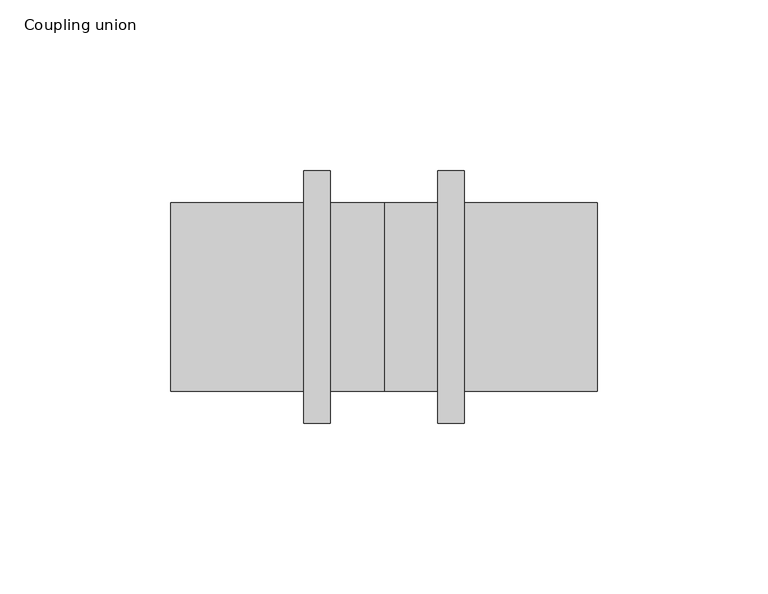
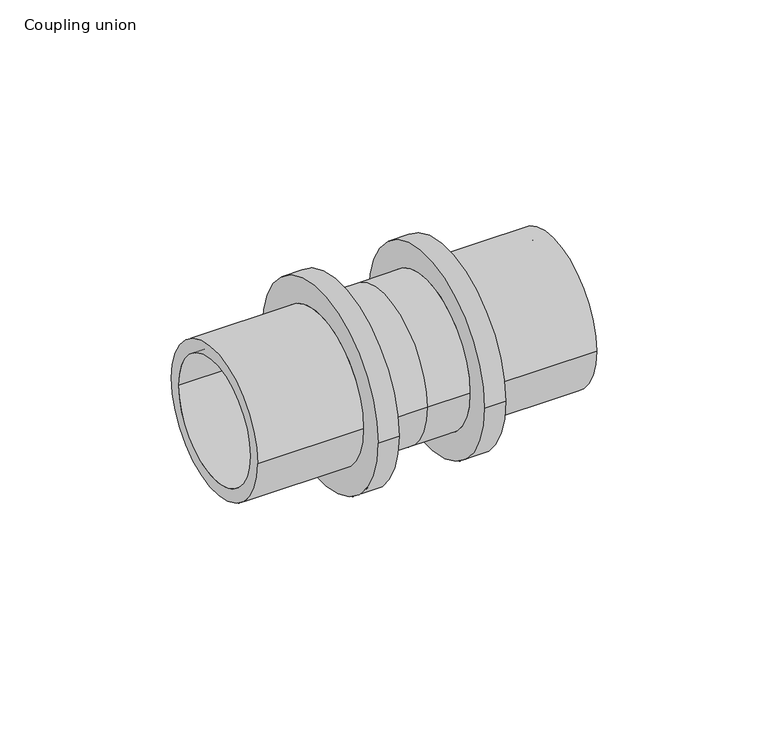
"""IFC4 building model written with IfcOpenShell, lengths in millimetres: pipe fitting geometry, Coupling union : C EQ SDR11 LX."""

from ifc_helpers import new_model, si_unit, frame, origin, place, context, project, spatial, polyline, circle_curve, source, transform, mapped, element, save
from ifc_brep_helpers import plane_surface, cylinder_surface, revolved_surface, advanced_brep


def coupling_union_f10d7a8f(model_context):
    return source(origin(), model_context, "Body", "AdvancedBrep", [
        advanced_brep(
        [(23.5, 37.0, 0.0), (23.5, -37.0, 0.0), (15.8, -37.0, 0.0), (15.8, 37.0, 0.0), (62.5, 27.55, 0.0), (62.5, -27.55, 0.0), (23.5, -27.55, 0.0), (23.5, 27.55, 0.0), (-62.5, 22.75, 0.0), (-62.5, -22.75, 0.0), (62.5, -22.75, 0.0), (62.5, 22.75, 0.0), (-23.5, 27.55, 0.0), (-23.5, -27.55, 0.0), (-62.5, -27.55, 0.0), (-62.5, 27.55, 0.0), (-15.8, 37.0, 0.0), (-15.8, -37.0, 0.0), (-23.5, -37.0, 0.0), (-23.5, 37.0, 0.0), (0.0, 27.55, 0.0), (0.0, -27.55, 0.0), (-15.8, -27.55, 0.0), (-15.8, 27.55, 0.0), (15.8, 27.55, 0.0), (15.8, -27.55, 0.0)],
        [
            (0, 1, circle_curve(frame((23.5, 0.0, 0.0), z_axis=(-1.0, 0.0, 0.0), x_axis=(0.0, -1.0, 0.0)), 37.0)),
            (1, 2),
            (2, 3, circle_curve(frame((15.8, 0.0, 0.0), z_axis=(1.0, 0.0, 0.0), x_axis=(0.0, -1.0, 0.0)), 37.0)),
            (3, 0),
            (4, 5, circle_curve(frame((62.5, 0.0, 0.0), z_axis=(-1.0, 0.0, 0.0), x_axis=(0.0, -1.0, 0.0)), 27.55)),
            (5, 6),
            (6, 7, circle_curve(frame((23.5, 0.0, 0.0), z_axis=(1.0, 0.0, 0.0), x_axis=(0.0, -1.0, 0.0)), 27.55)),
            (7, 4),
            (8, 9, circle_curve(frame((-62.5, 0.0, 0.0), z_axis=(-1.0, 0.0, 0.0), x_axis=(0.0, -1.0, 0.0)), 22.75)),
            (9, 10),
            (10, 11, circle_curve(frame((62.5, 0.0, 0.0), z_axis=(1.0, 0.0, 0.0), x_axis=(0.0, -1.0, 0.0)), 22.75)),
            (11, 8),
            (12, 13, circle_curve(frame((-23.5, 0.0, 0.0), z_axis=(-1.0, 0.0, 0.0), x_axis=(0.0, -1.0, 0.0)), 27.55)),
            (13, 14),
            (14, 15, circle_curve(frame((-62.5, 0.0, 0.0), z_axis=(1.0, 0.0, 0.0), x_axis=(0.0, -1.0, 0.0)), 27.55)),
            (15, 12),
            (16, 17, circle_curve(frame((-15.8, 0.0, 0.0), z_axis=(-1.0, 0.0, 0.0), x_axis=(0.0, -1.0, 0.0)), 37.0)),
            (17, 18),
            (18, 19, circle_curve(frame((-23.5, 0.0, 0.0), z_axis=(1.0, 0.0, 0.0), x_axis=(0.0, -1.0, 0.0)), 37.0)),
            (19, 16),
            (20, 21, circle_curve(frame((0.0, 0.0, 0.0), z_axis=(-1.0, 0.0, 0.0), x_axis=(0.0, -1.0, 0.0)), 27.55)),
            (21, 22),
            (22, 23, circle_curve(frame((-15.8, 0.0, 0.0), z_axis=(1.0, 0.0, 0.0), x_axis=(0.0, -1.0, 0.0)), 27.55)),
            (23, 20),
            (24, 25, circle_curve(frame((15.8, 0.0, 0.0), z_axis=(-1.0, 0.0, 0.0), x_axis=(0.0, -1.0, 0.0)), 27.55)),
            (25, 21),
            (20, 24),
            (1, 0, circle_curve(frame((23.5, 0.0, 0.0), z_axis=(-1.0, 0.0, 0.0), x_axis=(0.0, 1.0, 0.0)), 37.0)),
            (3, 2, circle_curve(frame((15.8, 0.0, 0.0), z_axis=(1.0, 0.0, 0.0), x_axis=(0.0, 1.0, 0.0)), 37.0)),
            (6, 7, circle_curve(frame((23.5, 0.0, 0.0), z_axis=(-1.0, 0.0, 0.0), x_axis=(0.0, 1.0, 0.0)), 27.55)),
            (5, 4, circle_curve(frame((62.5, 0.0, 0.0), z_axis=(-1.0, 0.0, 0.0), x_axis=(0.0, 1.0, 0.0)), 27.55)),
            (10, 11, circle_curve(frame((62.5, 0.0, 0.0), z_axis=(-1.0, 0.0, 0.0), x_axis=(0.0, 1.0, 0.0)), 22.75)),
            (9, 8, circle_curve(frame((-62.5, 0.0, 0.0), z_axis=(-1.0, 0.0, 0.0), x_axis=(0.0, 1.0, 0.0)), 22.75)),
            (14, 15, circle_curve(frame((-62.5, 0.0, 0.0), z_axis=(-1.0, 0.0, 0.0), x_axis=(0.0, 1.0, 0.0)), 27.55)),
            (13, 12, circle_curve(frame((-23.5, 0.0, 0.0), z_axis=(-1.0, 0.0, 0.0), x_axis=(0.0, 1.0, 0.0)), 27.55)),
            (18, 19, circle_curve(frame((-23.5, 0.0, 0.0), z_axis=(-1.0, 0.0, 0.0), x_axis=(0.0, 1.0, 0.0)), 37.0)),
            (17, 16, circle_curve(frame((-15.8, 0.0, 0.0), z_axis=(-1.0, 0.0, 0.0), x_axis=(0.0, 1.0, 0.0)), 37.0)),
            (22, 23, circle_curve(frame((-15.8, 0.0, 0.0), z_axis=(-1.0, 0.0, 0.0), x_axis=(0.0, 1.0, 0.0)), 27.55)),
            (21, 20, circle_curve(frame((0.0, 0.0, 0.0), z_axis=(-1.0, 0.0, 0.0), x_axis=(0.0, 1.0, 0.0)), 27.55)),
            (25, 24, circle_curve(frame((15.8, 0.0, 0.0), z_axis=(-1.0, 0.0, 0.0), x_axis=(0.0, 1.0, 0.0)), 27.55)),
        ],
        [
            cylinder_surface(frame((0.0, 0.0, 0.0), z_axis=(1.0, 0.0, 0.0), x_axis=(0.0, -1.0, 0.0)), 37.0),
            cylinder_surface(frame((0.0, 0.0, 0.0), z_axis=(1.0, 0.0, 0.0), x_axis=(0.0, -1.0, 0.0)), 27.55),
            revolved_surface(polyline([(62.5, -22.75, 0.0), (-62.5, -22.75, 0.0)]), (0.0, 0.0, 0.0), (1.0, 0.0, 0.0)),
            cylinder_surface(frame((0.0, 0.0, 0.0), z_axis=(1.0, 0.0, 0.0), x_axis=(0.0, 1.0, 0.0)), 37.0),
            plane_surface(frame((23.5, 0.0, 0.0), z_axis=(1.0, 0.0, 0.0), x_axis=(0.0, 1.0, 0.0))),
            cylinder_surface(frame((0.0, 0.0, 0.0), z_axis=(1.0, 0.0, 0.0), x_axis=(0.0, 1.0, 0.0)), 27.55),
            plane_surface(frame((62.5, 0.0, 0.0), z_axis=(1.0, 0.0, 0.0), x_axis=(0.0, 1.0, 0.0))),
            revolved_surface(polyline([(62.5, 22.75, 0.0), (-62.5, 22.75, 0.0)]), (0.0, 0.0, 0.0), (1.0, 0.0, 0.0)),
            plane_surface(frame((-62.5, 0.0, 0.0), z_axis=(-1.0, 0.0, 0.0), x_axis=(0.0, 1.0, 0.0))),
            plane_surface(frame((-23.5, 0.0, 0.0), z_axis=(-1.0, 0.0, 0.0), x_axis=(0.0, 1.0, 0.0))),
            plane_surface(frame((-15.8, 0.0, 0.0), z_axis=(1.0, 0.0, 0.0), x_axis=(0.0, 1.0, 0.0))),
            plane_surface(frame((15.8, 0.0, 0.0), z_axis=(-1.0, 0.0, 0.0), x_axis=(0.0, 1.0, 0.0))),
        ],
        [
            (0, [[1, 2, 3, 4]]),
            (1, [[5, 6, 7, 8]]),
            (2, [[9, 10, 11, 12]]),
            (1, [[13, 14, 15, 16]]),
            (0, [[17, 18, 19, 20]]),
            (1, [[21, 22, 23, 24]]),
            (1, [[25, 26, -21, 27]]),
            (3, [[28, -4, 29, -2]]),
            (4, [[-28, -1], [30, -7]]),
            (5, [[31, -8, -30, -6]]),
            (6, [[-31, -5], [32, -11]]),
            (7, [[33, -12, -32, -10]]),
            (8, [[34, -15], [-33, -9]]),
            (5, [[35, -16, -34, -14]]),
            (9, [[36, -19], [-35, -13]]),
            (3, [[37, -20, -36, -18]]),
            (10, [[-37, -17], [38, -23]]),
            (5, [[39, -24, -38, -22]]),
            (5, [[40, -27, -39, -26]]),
            (11, [[-29, -3], [-40, -25]]),
        ],
    ),
    ])


if __name__ == "__main__":
    model = new_model("IFC4")
    model_context = context("Model", 3, world=origin())
    ifc_project = project(units=[si_unit("LENGTHUNIT", "METRE", prefix="MILLI")], contexts=[model_context])
    site = spatial("IfcSite", under=ifc_project)
    building = spatial("IfcBuilding", under=site)
    placement = place(None, origin())
    coupling_union_shape = coupling_union_f10d7a8f(model_context)
    element("IfcPipeFitting", 1, ObjectType="Coupling union : C EQ SDR11 LX", at=placement, inside=building, context=model_context, shape_type="MappedRepresentation", body=[
        mapped(coupling_union_shape, transform((0.0, 0.0, 0.0), x_axis=(1.0, 0.0, 0.0), y_axis=(0.0, 1.0, 0.0), z_axis=(0.0, 0.0, 1.0))),
    ])
    save(model, "model.ifc")
